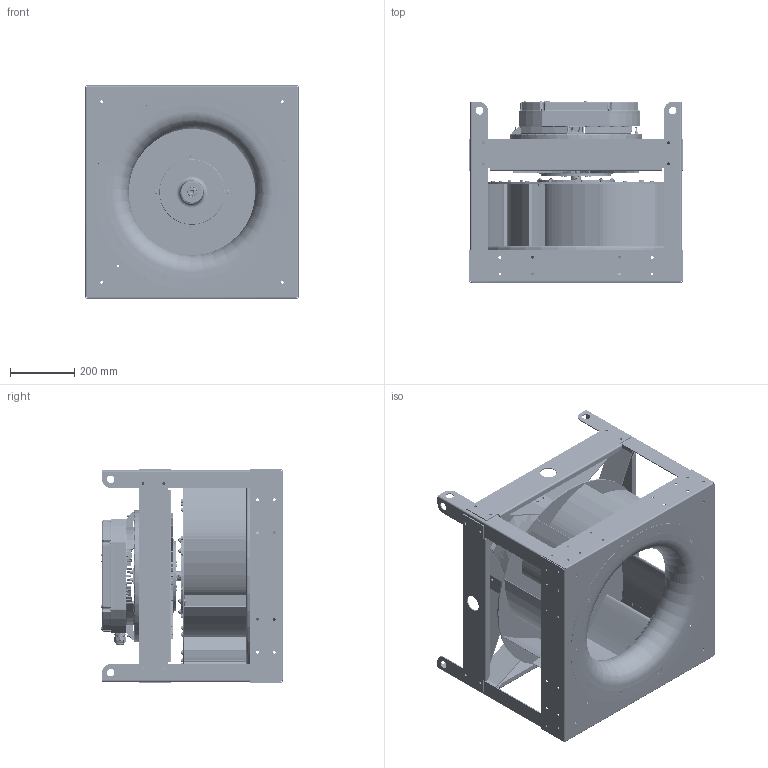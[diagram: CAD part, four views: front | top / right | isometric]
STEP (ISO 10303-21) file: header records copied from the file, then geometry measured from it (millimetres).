
FILE_DESCRIPTION (( 'STEP AP214' ), '1' );
FILE_NAME ('655793.STEP', '2026-06-11T14:40:14', ( '' ), ( '' ), 'SwSTEP 2.0', 'SolidWorks 2023', '' );
FILE_SCHEMA (( 'AUTOMOTIVE_DESIGN' ));
Length unit declared in the file: inch
Products named in the file (18): SXP24 INLET ASSY_655568; 941044_941044; 941456_941456; SXP24-9 FP_651374; SXP24 WHEEL ASSY_655674; 651582_651582; SXPI STRAP_651579; SXP24 INLET_651355; 925230CS_925230CS; SXP24-9 BP_651497; 681533_681533; 651614_651614; SXP24 BAFFLE_682867; 941457_941457; SXP24 BLADE_651372; 651593_651593; SXP24 WHEEL WELDMENT_655673; 655793
Assembly tree (86 placements, depth 4):
  655793
    651582_651582
    651614_651614  x4
    651593_651593  x4
    SXPI STRAP_651579  x4
    925230CS_925230CS
    SXP24 WHEEL ASSY_655674
      SXP24 WHEEL WELDMENT_655673
        SXP24-9 FP_651374
        SXP24 BLADE_651372  x9
        SXP24-9 BP_651497
        941044_941044  x36
      681533_681533
      941456_941456  x8
      941457_941457  x8
    SXP24 INLET ASSY_655568
      SXP24 INLET_651355
      SXP24 BAFFLE_682867  x4
Bounding box: 662.27 x 565.51 x 662.27 mm (x, y, z)
Volume: 8718985.2 mm3; surface area: 6624405.5 mm2
Topology: 82 solids, 304 shells, 6875 faces, 20238 edges, 13517 vertices
Faces by surface type: cylinder 2038, plane 1754, bspline 1522, cone 1119, torus 413, sphere 29
Full cylindrical faces by diameter (mm): 2.9 x2, 4.762 x1, 4.763 x17, 5.105 x16, 5.156 x10, 6 x144, 6.35 x46, 7 x5, 7.137 x64, 7.544 x2, 7.937 x3, 7.938 x1, 7.95 x2, 8.5 x1, 8.738 x87, 9 x5, 9.73 x8, 10.1 x1, 10.2 x1, 11.8 x7, 12.5 x1, 12.6 x1, 13 x7, 13.208 x44, 14 x1, 15.088 x8, 17.462 x4, 20.32 x10, 23.5 x1, 25.4 x9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
Entity records: 312017 total; most frequent: CARTESIAN_POINT 210019, ORIENTED_EDGE 20419, DIRECTION 18419, EDGE_CURVE 12623, VERTEX_POINT 8930, AXIS2_PLACEMENT_3D 7442, EDGE_LOOP 5232, FACE_OUTER_BOUND 4427
